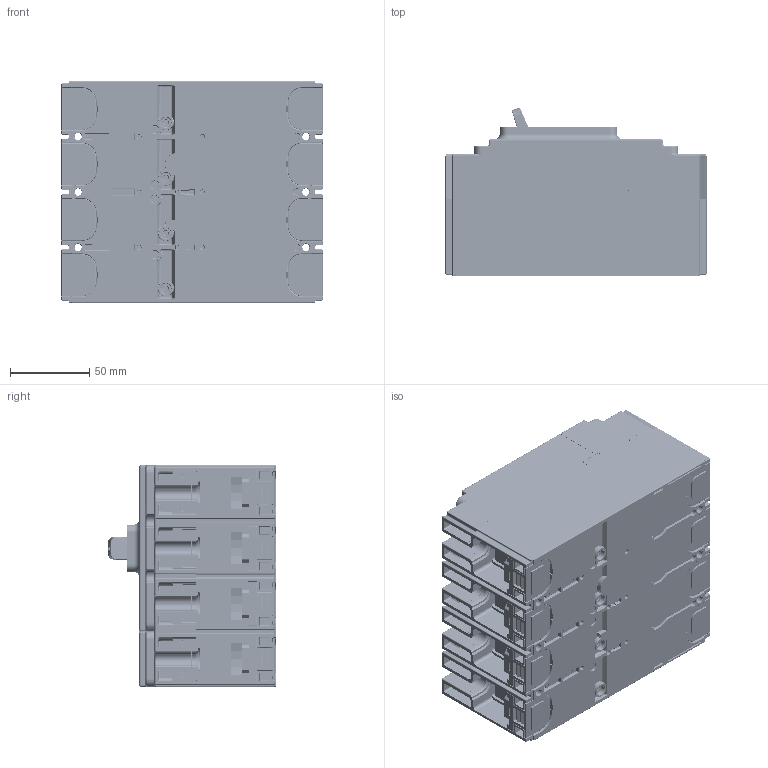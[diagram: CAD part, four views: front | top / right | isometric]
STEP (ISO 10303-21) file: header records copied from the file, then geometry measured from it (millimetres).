
FILE_DESCRIPTION((''),'2;1');
FILE_NAME('HGP250-G_4P_SIMP_ASM','2020-06-15T',('HHI'),(''),'PRO/ENGINEER BY PARAMETRIC TECHNOLOGY CORPORATION, 2017170','PRO/ENGINEER BY PARAMETRIC TECHNOLOGY CORPORATION, 2017170','');
FILE_SCHEMA(('CONFIG_CONTROL_DESIGN'));
Products named in the file (15): GP2_4P_BASE; GP2_TERMINAL_BASE; GP2_4PR_MAIN_COVER; GP2_4PR_TRIP_COVER; GP2_4P_FRONT_COVER; GP2_FRONT_COVER; GP2_HANDLE; GP2_HANDLE_PRINT; GP2_ON_OFF_PRINTED_HANDLE_ASSY_ASM; GP2_KNOB_PROTECTION_COVER; GP2_TRIP_BUTTON; M3_L25_PH_TAPPING_SCREW; M3_L12_PH_TAPPING_SCREW; M3_5_L30_PH_TAPPING_SCREW; HGP250-G_4P_SIMP_ASM
Assembly tree (28 placements, depth 3):
  HGP250-G_4P_SIMP_ASM
    GP2_4P_BASE
    GP2_TERMINAL_BASE  x9
    GP2_4PR_MAIN_COVER
    GP2_4PR_TRIP_COVER
    GP2_4P_FRONT_COVER
    GP2_FRONT_COVER
    GP2_ON_OFF_PRINTED_HANDLE_ASSY_ASM
      GP2_HANDLE
      GP2_HANDLE_PRINT
    GP2_KNOB_PROTECTION_COVER
    GP2_TRIP_BUTTON
    M3_L25_PH_TAPPING_SCREW  x3
    M3_L12_PH_TAPPING_SCREW  x3
    M3_5_L30_PH_TAPPING_SCREW  x3
Bounding box: 165 x 106.56 x 140 mm (x, y, z)
Volume: 1621784.4 mm3; surface area: 329121.3 mm2
Topology: 30 solids, 52 shells, 8246 faces, 20866 edges, 12813 vertices
Faces by surface type: plane 3506, cylinder 2905, torus 560, sphere 426, bspline 345, cone 344, extrusion 160
Entity records: 224307 total; most frequent: CARTESIAN_POINT 64054, ORIENTED_EDGE 33682, DIRECTION 33287, EDGE_CURVE 16841, AXIS2_PLACEMENT_3D 11725, VERTEX_POINT 10371, VECTOR 9837, LINE 9677
